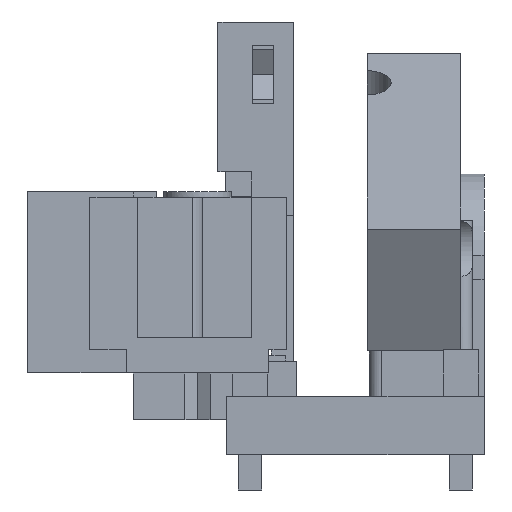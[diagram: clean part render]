
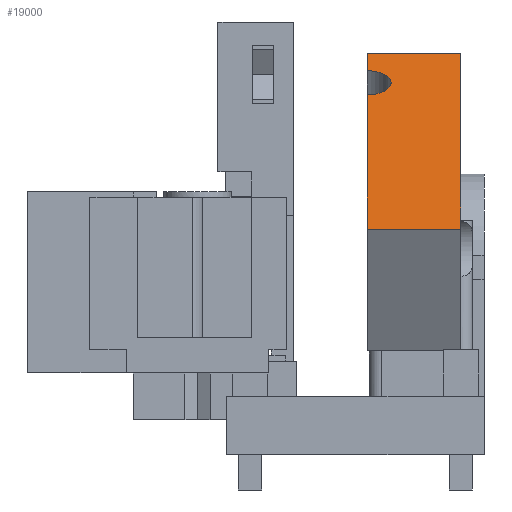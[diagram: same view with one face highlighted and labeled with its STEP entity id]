
A CAD part, left-side view. The second image highlights one B-rep face of the part: STEP entity #19000.
In plain terms, the highlighted planar face has unit normal (-0.5, 0, 0.866).
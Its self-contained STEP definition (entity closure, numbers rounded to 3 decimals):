
#5345 = PLANE('',#5346);
#5346 = AXIS2_PLACEMENT_3D('',#5347,#5348,#5349);
#5347 = CARTESIAN_POINT('',(-32.28,-9.,-7.09));
#5348 = DIRECTION('',(-0.,1.,0.));
#5349 = DIRECTION('',(-0.5,-0.,0.866));
#5574 = PLANE('',#5575);
#5575 = AXIS2_PLACEMENT_3D('',#5576,#5577,#5578);
#5576 = CARTESIAN_POINT('',(-32.28,-9.,-7.09));
#5577 = DIRECTION('',(0.866,0.,0.5));
#5578 = DIRECTION('',(-0.5,0.,0.866));
#12862 = VERTEX_POINT('',#12863);
#12863 = CARTESIAN_POINT('',(-38.28,-9.,3.303));
#12884 = EDGE_CURVE('',#12862,#12885,#12887,.T.);
#12885 = VERTEX_POINT('',#12886);
#12886 = CARTESIAN_POINT('',(-12.299,-9.,18.303));
#12887 = SURFACE_CURVE('',#12888,(#12892,#12899),.PCURVE_S1.);
#12888 = LINE('',#12889,#12890);
#12889 = CARTESIAN_POINT('',(-38.28,-9.,3.303));
#12890 = VECTOR('',#12891,1.);
#12891 = DIRECTION('',(0.866,0.,0.5));
#12892 = PCURVE('',#5345,#12893);
#12893 = DEFINITIONAL_REPRESENTATION('',(#12894),#12898);
#12894 = LINE('',#12895,#12896);
#12895 = CARTESIAN_POINT('',(12.,0.));
#12896 = VECTOR('',#12897,1.);
#12897 = DIRECTION('',(0.,1.));
#12898 = ( GEOMETRIC_REPRESENTATION_CONTEXT(2) 
PARAMETRIC_REPRESENTATION_CONTEXT() REPRESENTATION_CONTEXT('2D SPACE',''
  ) );
#12899 = PCURVE('',#12900,#12905);
#12900 = PLANE('',#12901);
#12901 = AXIS2_PLACEMENT_3D('',#12902,#12903,#12904);
#12902 = CARTESIAN_POINT('',(-38.28,-9.,3.303));
#12903 = DIRECTION('',(-0.5,0.,0.866));
#12904 = DIRECTION('',(0.866,0.,0.5));
#12905 = DEFINITIONAL_REPRESENTATION('',(#12906),#12910);
#12906 = LINE('',#12907,#12908);
#12907 = CARTESIAN_POINT('',(0.,0.));
#12908 = VECTOR('',#12909,1.);
#12909 = DIRECTION('',(1.,0.));
#12910 = ( GEOMETRIC_REPRESENTATION_CONTEXT(2) 
PARAMETRIC_REPRESENTATION_CONTEXT() REPRESENTATION_CONTEXT('2D SPACE',''
  ) );
#12928 = PLANE('',#12929);
#12929 = AXIS2_PLACEMENT_3D('',#12930,#12931,#12932);
#12930 = CARTESIAN_POINT('',(-6.299,-9.,7.91));
#12931 = DIRECTION('',(0.866,0.,0.5));
#12932 = DIRECTION('',(-0.5,0.,0.866));
#13051 = EDGE_CURVE('',#12862,#13052,#13054,.T.);
#13052 = VERTEX_POINT('',#13053);
#13053 = CARTESIAN_POINT('',(-38.28,-1.,3.303));
#13054 = SURFACE_CURVE('',#13055,(#13059,#13066),.PCURVE_S1.);
#13055 = LINE('',#13056,#13057);
#13056 = CARTESIAN_POINT('',(-38.28,-9.,3.303));
#13057 = VECTOR('',#13058,1.);
#13058 = DIRECTION('',(-0.,1.,0.));
#13059 = PCURVE('',#5574,#13060);
#13060 = DEFINITIONAL_REPRESENTATION('',(#13061),#13065);
#13061 = LINE('',#13062,#13063);
#13062 = CARTESIAN_POINT('',(12.,0.));
#13063 = VECTOR('',#13064,1.);
#13064 = DIRECTION('',(0.,-1.));
#13065 = ( GEOMETRIC_REPRESENTATION_CONTEXT(2) 
PARAMETRIC_REPRESENTATION_CONTEXT() REPRESENTATION_CONTEXT('2D SPACE',''
  ) );
#13066 = PCURVE('',#12900,#13067);
#13067 = DEFINITIONAL_REPRESENTATION('',(#13068),#13072);
#13068 = LINE('',#13069,#13070);
#13069 = CARTESIAN_POINT('',(0.,0.));
#13070 = VECTOR('',#13071,1.);
#13071 = DIRECTION('',(0.,1.));
#13072 = ( GEOMETRIC_REPRESENTATION_CONTEXT(2) 
PARAMETRIC_REPRESENTATION_CONTEXT() REPRESENTATION_CONTEXT('2D SPACE',''
  ) );
#13114 = PLANE('',#13115);
#13115 = AXIS2_PLACEMENT_3D('',#13116,#13117,#13118);
#13116 = CARTESIAN_POINT('',(-27.78,-1.,-14.884));
#13117 = DIRECTION('',(-0.,1.,0.));
#13118 = DIRECTION('',(-0.5,-0.,0.866));
#13147 = PLANE('',#13148);
#13148 = AXIS2_PLACEMENT_3D('',#13149,#13150,#13151);
#13149 = CARTESIAN_POINT('',(-27.78,-1.,-14.884));
#13150 = DIRECTION('',(-0.,1.,0.));
#13151 = DIRECTION('',(-0.5,-0.,0.866));
#19000 = ADVANCED_FACE('',(#19001),#12900,.T.);
#19001 = FACE_BOUND('',#19002,.T.);
#19002 = EDGE_LOOP('',(#19003,#19004,#19005,#19028,#19051,#19080));
#19003 = ORIENTED_EDGE('',*,*,#13051,.F.);
#19004 = ORIENTED_EDGE('',*,*,#12884,.T.);
#19005 = ORIENTED_EDGE('',*,*,#19006,.T.);
#19006 = EDGE_CURVE('',#12885,#19007,#19009,.T.);
#19007 = VERTEX_POINT('',#19008);
#19008 = CARTESIAN_POINT('',(-12.299,-1.,18.303));
#19009 = SURFACE_CURVE('',#19010,(#19014,#19021),.PCURVE_S1.);
#19010 = LINE('',#19011,#19012);
#19011 = CARTESIAN_POINT('',(-12.299,-9.,18.303));
#19012 = VECTOR('',#19013,1.);
#19013 = DIRECTION('',(-0.,1.,0.));
#19014 = PCURVE('',#12900,#19015);
#19015 = DEFINITIONAL_REPRESENTATION('',(#19016),#19020);
#19016 = LINE('',#19017,#19018);
#19017 = CARTESIAN_POINT('',(30.,0.));
#19018 = VECTOR('',#19019,1.);
#19019 = DIRECTION('',(0.,1.));
#19020 = ( GEOMETRIC_REPRESENTATION_CONTEXT(2) 
PARAMETRIC_REPRESENTATION_CONTEXT() REPRESENTATION_CONTEXT('2D SPACE',''
  ) );
#19021 = PCURVE('',#12928,#19022);
#19022 = DEFINITIONAL_REPRESENTATION('',(#19023),#19027);
#19023 = LINE('',#19024,#19025);
#19024 = CARTESIAN_POINT('',(12.,0.));
#19025 = VECTOR('',#19026,1.);
#19026 = DIRECTION('',(0.,-1.));
#19027 = ( GEOMETRIC_REPRESENTATION_CONTEXT(2) 
PARAMETRIC_REPRESENTATION_CONTEXT() REPRESENTATION_CONTEXT('2D SPACE',''
  ) );
#19028 = ORIENTED_EDGE('',*,*,#19029,.T.);
#19029 = EDGE_CURVE('',#19007,#19030,#19032,.T.);
#19030 = VERTEX_POINT('',#19031);
#19031 = CARTESIAN_POINT('',(-14.854,-1.,16.828));
#19032 = SURFACE_CURVE('',#19033,(#19037,#19044),.PCURVE_S1.);
#19033 = LINE('',#19034,#19035);
#19034 = CARTESIAN_POINT('',(-38.28,-1.,3.303));
#19035 = VECTOR('',#19036,1.);
#19036 = DIRECTION('',(-0.866,-0.,-0.5));
#19037 = PCURVE('',#12900,#19038);
#19038 = DEFINITIONAL_REPRESENTATION('',(#19039),#19043);
#19039 = LINE('',#19040,#19041);
#19040 = CARTESIAN_POINT('',(0.,8.));
#19041 = VECTOR('',#19042,1.);
#19042 = DIRECTION('',(-1.,0.));
#19043 = ( GEOMETRIC_REPRESENTATION_CONTEXT(2) 
PARAMETRIC_REPRESENTATION_CONTEXT() REPRESENTATION_CONTEXT('2D SPACE',''
  ) );
#19044 = PCURVE('',#13147,#19045);
#19045 = DEFINITIONAL_REPRESENTATION('',(#19046),#19050);
#19046 = LINE('',#19047,#19048);
#19047 = CARTESIAN_POINT('',(21.,0.));
#19048 = VECTOR('',#19049,1.);
#19049 = DIRECTION('',(0.,-1.));
#19050 = ( GEOMETRIC_REPRESENTATION_CONTEXT(2) 
PARAMETRIC_REPRESENTATION_CONTEXT() REPRESENTATION_CONTEXT('2D SPACE',''
  ) );
#19051 = ORIENTED_EDGE('',*,*,#19052,.F.);
#19052 = EDGE_CURVE('',#19053,#19030,#19055,.T.);
#19053 = VERTEX_POINT('',#19054);
#19054 = CARTESIAN_POINT('',(-18.405,-1.,14.778));
#19055 = SURFACE_CURVE('',#19056,(#19061,#19068),.PCURVE_S1.);
#19056 = CIRCLE('',#19057,2.05);
#19057 = AXIS2_PLACEMENT_3D('',#19058,#19059,#19060);
#19058 = CARTESIAN_POINT('',(-16.629,-1.,15.803));
#19059 = DIRECTION('',(-0.5,0.,0.866));
#19060 = DIRECTION('',(0.866,0.,0.5));
#19061 = PCURVE('',#12900,#19062);
#19062 = DEFINITIONAL_REPRESENTATION('',(#19063),#19067);
#19063 = CIRCLE('',#19064,2.05);
#19064 = AXIS2_PLACEMENT_2D('',#19065,#19066);
#19065 = CARTESIAN_POINT('',(25.,8.));
#19066 = DIRECTION('',(1.,0.));
#19067 = ( GEOMETRIC_REPRESENTATION_CONTEXT(2) 
PARAMETRIC_REPRESENTATION_CONTEXT() REPRESENTATION_CONTEXT('2D SPACE',''
  ) );
#19068 = PCURVE('',#19069,#19074);
#19069 = CYLINDRICAL_SURFACE('',#19070,2.05);
#19070 = AXIS2_PLACEMENT_3D('',#19071,#19072,#19073);
#19071 = CARTESIAN_POINT('',(-13.129,-1.,9.74));
#19072 = DIRECTION('',(-0.5,0.,0.866));
#19073 = DIRECTION('',(0.866,0.,0.5));
#19074 = DEFINITIONAL_REPRESENTATION('',(#19075),#19079);
#19075 = LINE('',#19076,#19077);
#19076 = CARTESIAN_POINT('',(0.,7.));
#19077 = VECTOR('',#19078,1.);
#19078 = DIRECTION('',(1.,0.));
#19079 = ( GEOMETRIC_REPRESENTATION_CONTEXT(2) 
PARAMETRIC_REPRESENTATION_CONTEXT() REPRESENTATION_CONTEXT('2D SPACE',''
  ) );
#19080 = ORIENTED_EDGE('',*,*,#19081,.T.);
#19081 = EDGE_CURVE('',#19053,#13052,#19082,.T.);
#19082 = SURFACE_CURVE('',#19083,(#19087,#19094),.PCURVE_S1.);
#19083 = LINE('',#19084,#19085);
#19084 = CARTESIAN_POINT('',(-38.28,-1.,3.303));
#19085 = VECTOR('',#19086,1.);
#19086 = DIRECTION('',(-0.866,-0.,-0.5));
#19087 = PCURVE('',#12900,#19088);
#19088 = DEFINITIONAL_REPRESENTATION('',(#19089),#19093);
#19089 = LINE('',#19090,#19091);
#19090 = CARTESIAN_POINT('',(0.,8.));
#19091 = VECTOR('',#19092,1.);
#19092 = DIRECTION('',(-1.,0.));
#19093 = ( GEOMETRIC_REPRESENTATION_CONTEXT(2) 
PARAMETRIC_REPRESENTATION_CONTEXT() REPRESENTATION_CONTEXT('2D SPACE',''
  ) );
#19094 = PCURVE('',#13114,#19095);
#19095 = DEFINITIONAL_REPRESENTATION('',(#19096),#19100);
#19096 = LINE('',#19097,#19098);
#19097 = CARTESIAN_POINT('',(21.,0.));
#19098 = VECTOR('',#19099,1.);
#19099 = DIRECTION('',(0.,-1.));
#19100 = ( GEOMETRIC_REPRESENTATION_CONTEXT(2) 
PARAMETRIC_REPRESENTATION_CONTEXT() REPRESENTATION_CONTEXT('2D SPACE',''
  ) );
